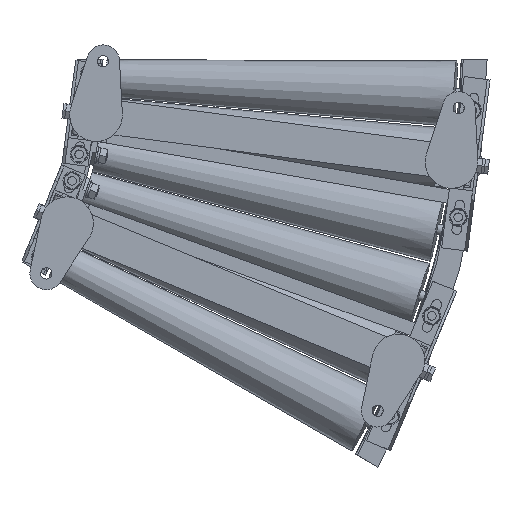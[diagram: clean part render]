
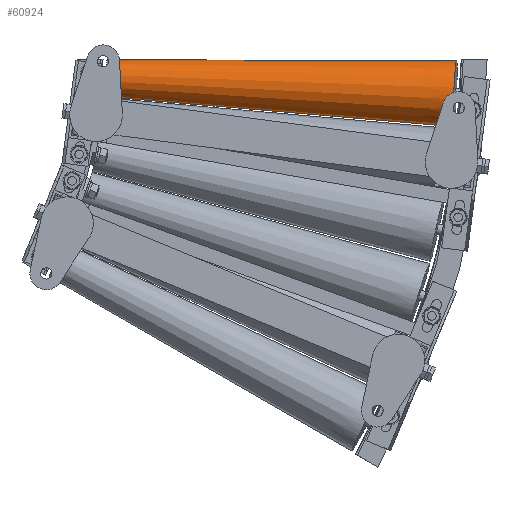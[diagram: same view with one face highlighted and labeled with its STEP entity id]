
A CAD part, front view. The second image highlights one B-rep face of the part: STEP entity #60924.
In plain terms, the highlighted conical face has half-angle 2.42 degrees and reference radius 38.45 mm.
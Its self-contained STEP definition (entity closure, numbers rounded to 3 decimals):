
#1872 = ORIENTED_EDGE ( 'NONE', *, *, #81988, .T. ) ;
#4378 = DIRECTION ( 'NONE',  ( 0.044, 0., 0.999 ) ) ;
#6607 = DIRECTION ( 'NONE',  ( -0.998, 0.042, 0.044 ) ) ;
#10767 = EDGE_LOOP ( 'NONE', ( #60952, #27148, #77510, #1872 ) ) ;
#13901 = CARTESIAN_POINT ( 'NONE',  ( 909.614, -38.416, -1.228 ) ) ;
#17519 = CIRCLE ( 'NONE', #37314, 21.35 ) ;
#27148 = ORIENTED_EDGE ( 'NONE', *, *, #89512, .F. ) ;
#27247 = CARTESIAN_POINT ( 'NONE',  ( 907.937, -38.416, -39.641 ) ) ;
#28556 = VECTOR ( 'NONE', #73461, 1000. ) ;
#29633 = CARTESIAN_POINT ( 'NONE',  ( 504.975, -21.331, -0.677 ) ) ;
#30793 = AXIS2_PLACEMENT_3D ( 'NONE', #45882, #65679, #59665 ) ;
#34764 = DIRECTION ( 'NONE',  ( 0.999, -0.042, -0.001 ) ) ;
#36329 = EDGE_CURVE ( 'NONE', #67158, #55428, #47012, .T. ) ;
#37266 = CIRCLE ( 'NONE', #86078, 38.45 ) ;
#37314 = AXIS2_PLACEMENT_3D ( 'NONE', #39342, #66122, #4378 ) ;
#39342 = CARTESIAN_POINT ( 'NONE',  ( 504.044, -21.331, -22.007 ) ) ;
#45188 = VECTOR ( 'NONE', #34764, 1000. ) ;
#45882 = CARTESIAN_POINT ( 'NONE',  ( 907.937, -38.416, -39.641 ) ) ;
#46873 = EDGE_CURVE ( 'NONE', #74888, #80430, #73123, .T. ) ;
#47012 = LINE ( 'NONE', #67742, #28556 ) ;
#55428 = VERTEX_POINT ( 'NONE', #74037 ) ;
#59665 = DIRECTION ( 'NONE',  ( -0.044, 0., -0.999 ) ) ;
#60924 = ADVANCED_FACE ( 'NONE', ( #63223 ), #61078, .T. ) ;
#60952 = ORIENTED_EDGE ( 'NONE', *, *, #46873, .F. ) ;
#61078 = CONICAL_SURFACE ( 'NONE', #30793, 38.45, 0.042 ) ;
#63223 = FACE_OUTER_BOUND ( 'NONE', #10767, .T. ) ;
#65679 = DIRECTION ( 'NONE',  ( 0.998, -0.042, -0.044 ) ) ;
#66122 = DIRECTION ( 'NONE',  ( -0.998, 0.042, 0.044 ) ) ;
#67158 = VERTEX_POINT ( 'NONE', #73726 ) ;
#67742 = CARTESIAN_POINT ( 'NONE',  ( 906.26, -38.416, -78.055 ) ) ;
#70311 = CARTESIAN_POINT ( 'NONE',  ( 909.614, -38.416, -1.228 ) ) ;
#73123 = LINE ( 'NONE', #70311, #45188 ) ;
#73461 = DIRECTION ( 'NONE',  ( 0.995, -0.042, -0.086 ) ) ;
#73726 = CARTESIAN_POINT ( 'NONE',  ( 503.113, -21.331, -43.337 ) ) ;
#74037 = CARTESIAN_POINT ( 'NONE',  ( 906.26, -38.416, -78.055 ) ) ;
#74888 = VERTEX_POINT ( 'NONE', #29633 ) ;
#77510 = ORIENTED_EDGE ( 'NONE', *, *, #36329, .T. ) ;
#80430 = VERTEX_POINT ( 'NONE', #13901 ) ;
#81988 = EDGE_CURVE ( 'NONE', #55428, #80430, #37266, .T. ) ;
#86078 = AXIS2_PLACEMENT_3D ( 'NONE', #27247, #6607, #88559 ) ;
#88559 = DIRECTION ( 'NONE',  ( 0.044, 0., 0.999 ) ) ;
#89512 = EDGE_CURVE ( 'NONE', #67158, #74888, #17519, .T. ) ;
